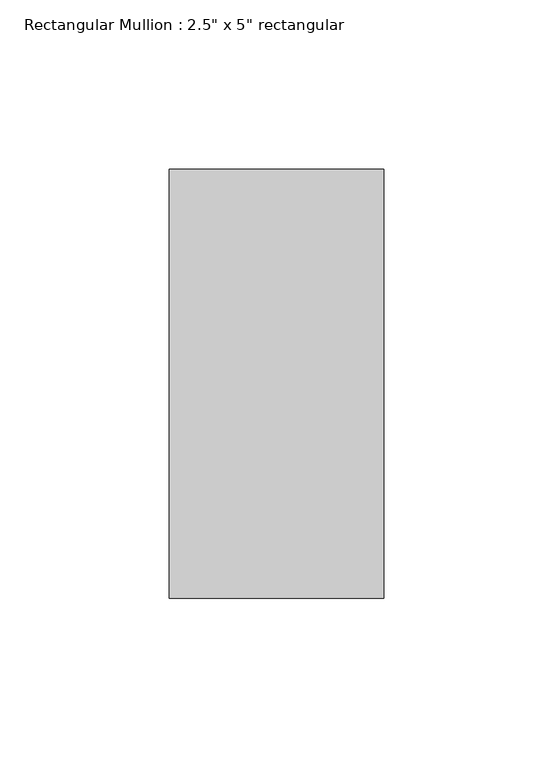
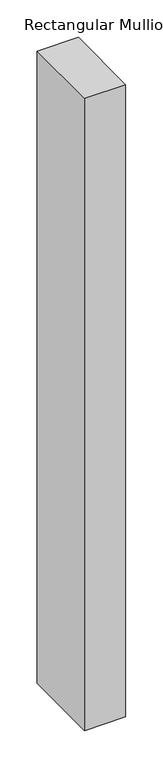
"""IFC4 building model written with IfcOpenShell, lengths in millimetres: member geometry."""

from ifc_helpers import new_model, si_unit, frame, origin, place, context, project, spatial, polyline, outline, extrude, source, transform, mapped, element, save


def member_e0e8bc7f(model_context):
    return source(origin(), model_context, "Body", "SweptSolid", [
        extrude(outline(polyline([(0.0, 63.5), (0.0, -63.5), (-63.5, -63.5), (-63.5, 63.5), (0.0, 63.5)])), frame((0.0, 0.0, -1032.5100002), z_axis=(0.0, 0.0, 1.0), x_axis=(1.0, 0.0, 0.0)), (0.0, 0.0, 1.0), 1032.5100002),
    ])


if __name__ == "__main__":
    model = new_model("IFC4")
    model_context = context("Model", 3, world=origin())
    ifc_project = project(units=[si_unit("LENGTHUNIT", "METRE", prefix="MILLI")], contexts=[model_context])
    site = spatial("IfcSite", under=ifc_project)
    building = spatial("IfcBuilding", under=site)
    placement = place(None, origin())
    member_shape = member_e0e8bc7f(model_context)
    element("IfcMember", 1, ObjectType="Rectangular Mullion : 2.5\" x 5\" rectangular", at=placement, inside=building, context=model_context, shape_type="MappedRepresentation", body=[
        mapped(member_shape, transform((0.0, 0.0, 0.0), x_axis=(1.0, 0.0, 0.0), y_axis=(0.0, 1.0, 0.0), z_axis=(0.0, 0.0, 1.0))),
    ])
    save(model, "model.ifc")
